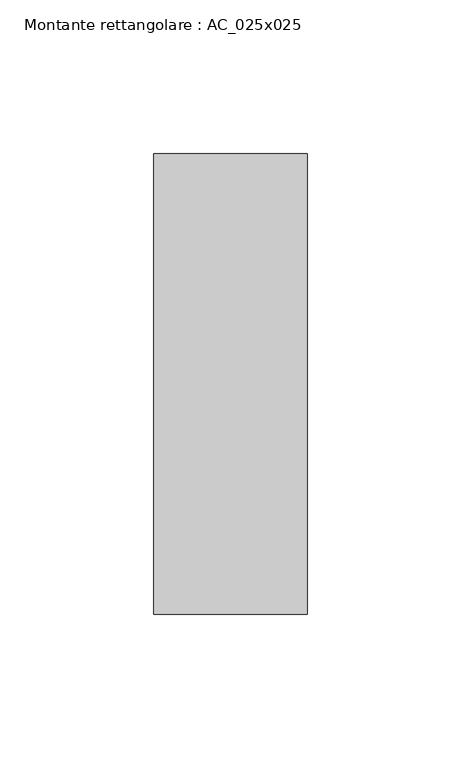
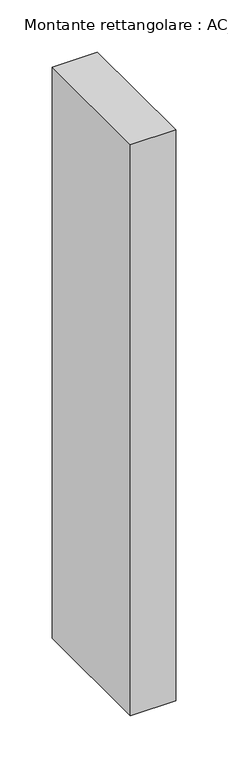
"""IFC4 building model written with IfcOpenShell, lengths in millimetres: member geometry, Montante rettangolare : AC_025x025."""

from ifc_helpers import new_model, si_unit, frame, origin, place, context, project, spatial, polyline, outline, extrude, source, transform, mapped, element, save


def montante_rettangolare_ac_025x025_81f427b6(model_context):
    return source(origin(), model_context, "Body", "SweptSolid", [
        extrude(outline(polyline([(0.0, 75.0), (0.0, -75.0), (-50.0, -75.0), (-50.0, 75.0), (0.0, 75.0)])), frame((0.0, 0.0, -667.5), z_axis=(0.0, 0.0, 1.0), x_axis=(1.0, 0.0, 0.0)), (0.0, 0.0, 1.0), 667.5),
    ])


if __name__ == "__main__":
    model = new_model("IFC4")
    model_context = context("Model", 3, world=origin())
    ifc_project = project(units=[si_unit("LENGTHUNIT", "METRE", prefix="MILLI")], contexts=[model_context])
    site = spatial("IfcSite", under=ifc_project)
    building = spatial("IfcBuilding", under=site)
    placement = place(None, origin())
    montante_rettangolare_ac_025x025_shape = montante_rettangolare_ac_025x025_81f427b6(model_context)
    element("IfcMember", 1, ObjectType="Montante rettangolare : AC_025x025", at=placement, inside=building, context=model_context, shape_type="MappedRepresentation", body=[
        mapped(montante_rettangolare_ac_025x025_shape, transform((0.0, 0.0, 0.0), x_axis=(1.0, 0.0, 0.0), y_axis=(0.0, 1.0, 0.0), z_axis=(0.0, 0.0, 1.0))),
    ])
    save(model, "model.ifc")
